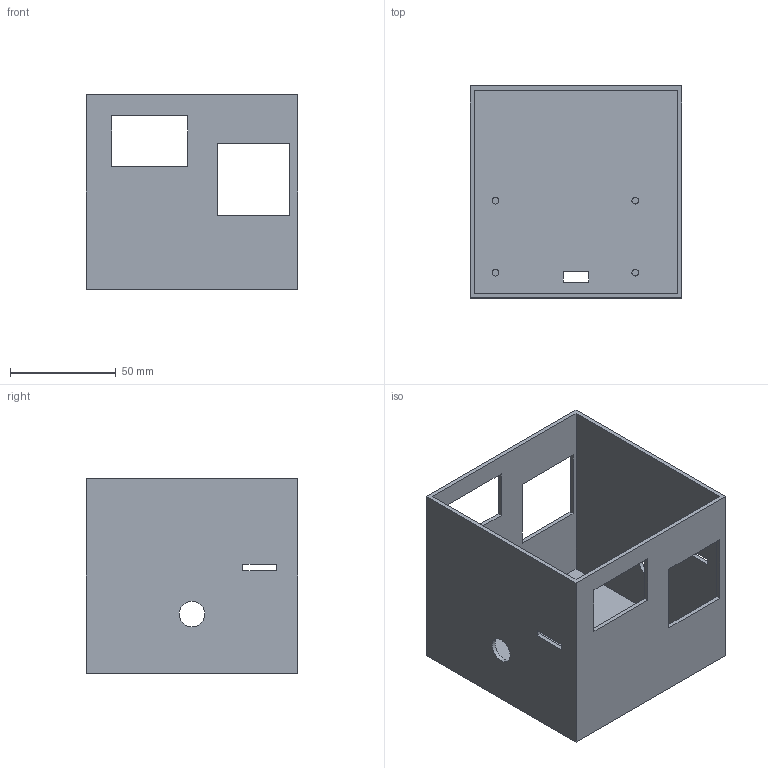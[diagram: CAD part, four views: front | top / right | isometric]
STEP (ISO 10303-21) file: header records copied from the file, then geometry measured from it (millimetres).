
FILE_DESCRIPTION(('Open CASCADE Model'),'2;1');
FILE_NAME('Open CASCADE Shape Model','2026-07-02T19:59:30',('Author'),( 'Open CASCADE'),'Open CASCADE STEP processor 7.7','Open CASCADE 7.7' ,'Unknown');
FILE_SCHEMA(('AUTOMOTIVE_DESIGN { 1 0 10303 214 1 1 1 1 }'));
Length unit declared in the file: millimetre
Products named in the file (1): Open CASCADE STEP translator 7.7 1
Bounding box: 100 x 100 x 92 mm (x, y, z)
Volume: 81844.3 mm3; surface area: 84071.3 mm2
Topology: 1 solids, 1 shells, 49 faces, 126 edges, 84 vertices
Faces by surface type: plane 43, cylinder 6
Full cylindrical faces by diameter (mm): 3.2 x4, 12 x2
Entity records: 3061 total; most frequent: CARTESIAN_POINT 670, DIRECTION 367, ORIENTED_EDGE 252, PCURVE 252, DEFINITIONAL_REPRESENTATION 252, LINE 238, VECTOR 238, EDGE_CURVE 126
